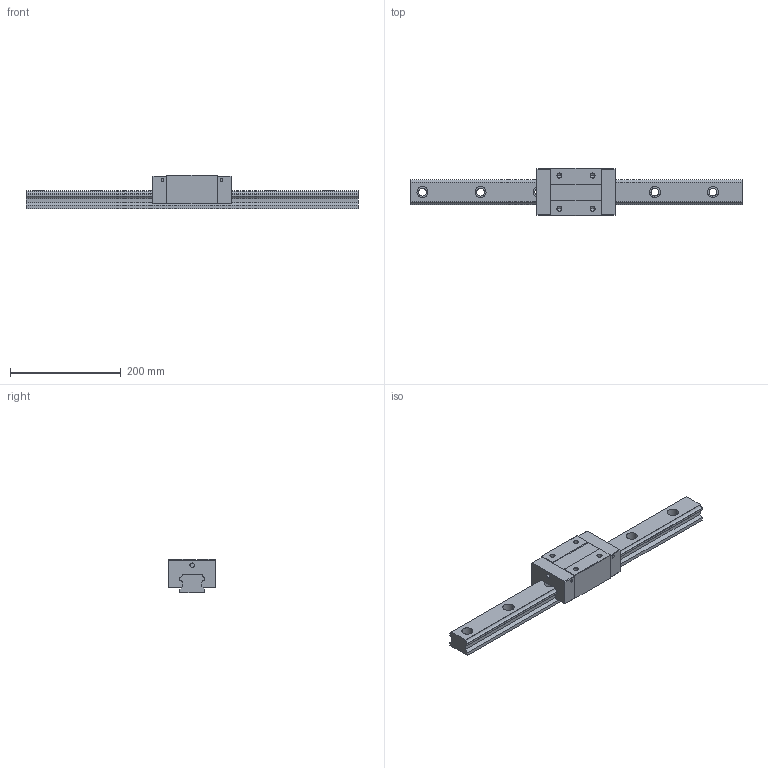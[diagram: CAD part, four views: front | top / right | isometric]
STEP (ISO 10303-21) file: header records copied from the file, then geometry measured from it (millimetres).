
FILE_DESCRIPTION (( 'STEP AP203' ), '1' );
FILE_NAME ('TRS45VN-XN.STEP', '2024-07-12T03:18:20', ( '' ), ( '' ), 'SwSTEP 2.0', 'SolidWorks 2022', '' );
FILE_SCHEMA (( 'CONFIG_CONTROL_DESIGN' ));
Length unit declared in the file: millimetre
Products named in the file (1): TRS45VN-XN
Bounding box: 600 x 85.5 x 60 mm (x, y, z)
Volume: 1187552.8 mm3; surface area: 162292.4 mm2
Topology: 2 solids, 2 shells, 180 faces, 472 edges, 304 vertices
Faces by surface type: plane 84, cylinder 80, cone 16
Entity records: 5607 total; most frequent: DIRECTION 994, CARTESIAN_POINT 949, ORIENTED_EDGE 928, EDGE_CURVE 464, AXIS2_PLACEMENT_3D 349, VERTEX_POINT 304, LINE 296, VECTOR 296
